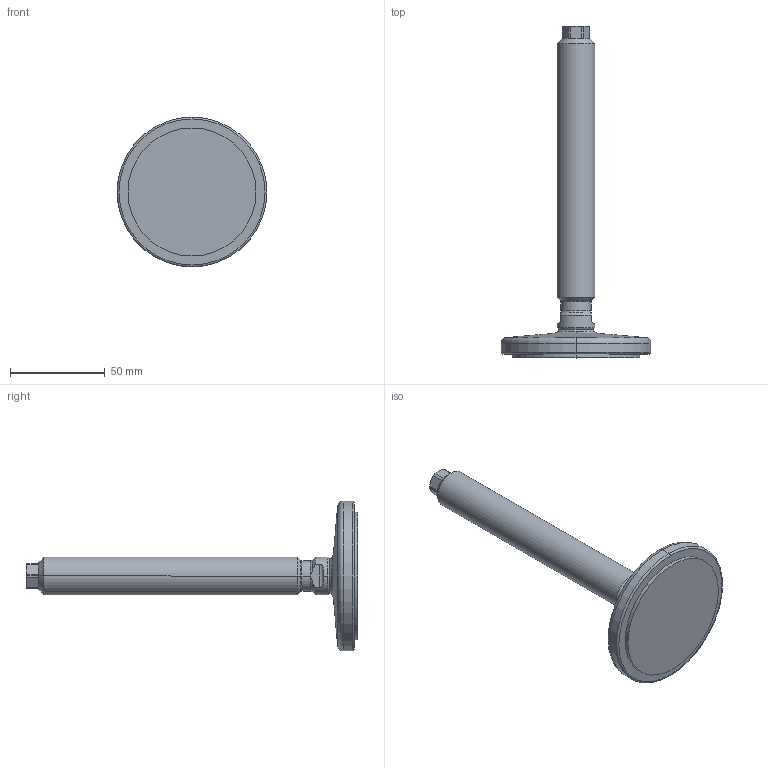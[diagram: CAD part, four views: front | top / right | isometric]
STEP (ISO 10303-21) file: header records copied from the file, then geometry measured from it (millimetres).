
FILE_DESCRIPTION (( 'STEP AP214' ), '1' );
FILE_NAME ('21-80-M20-150-D1-V.step', '2020-10-02T17:36:20', ( '' ), ( '' ), 'SwSTEP 2.0', 'SolidWorks 2019', '' );
FILE_SCHEMA (( 'AUTOMOTIVE_DESIGN' ));
Length unit declared in the file: millimetre
Products named in the file (3): 21-80-M20-150-D1-V; WB21_Fußteller 21^WB21_V_D1-080-R12-B9 (M20); WB21_Spindel_V^WB21_V_M20-150
Assembly tree (2 placements, depth 2):
  21-80-M20-150-D1-V
    WB21_Fußteller 21^WB21_V_D1-080-R12-B9 (M20)
    WB21_Spindel_V^WB21_V_M20-150
Bounding box: 79 x 175.02 x 79 mm (x, y, z)
Volume: 102386.3 mm3; surface area: 22786.7 mm2
Topology: 2 solids, 2 shells, 76 faces, 171 edges, 101 vertices
Faces by surface type: cylinder 25, plane 20, cone 17, torus 10, sphere 4
Entity records: 2387 total; most frequent: CARTESIAN_POINT 505, DIRECTION 390, ORIENTED_EDGE 342, EDGE_CURVE 171, AXIS2_PLACEMENT_3D 166, VERTEX_POINT 101, CIRCLE 85, EDGE_LOOP 78
